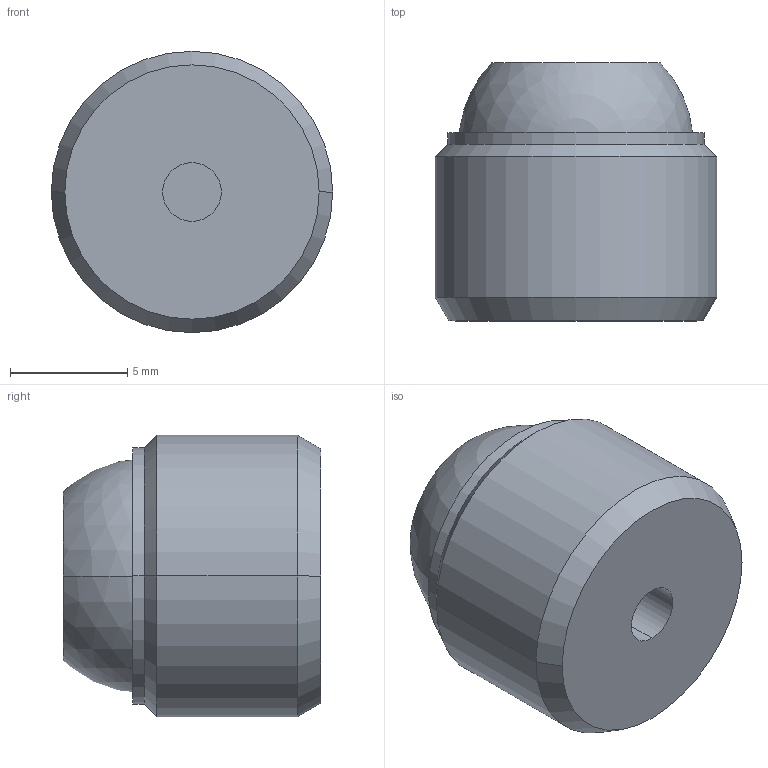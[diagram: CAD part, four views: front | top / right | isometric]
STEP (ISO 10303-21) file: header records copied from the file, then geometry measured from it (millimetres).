
FILE_DESCRIPTION (( 'STEP AP214' ), '1' );
FILE_NAME ('709.2-12-R.step', '2023-01-26T12:37:43', ( '' ), ( '' ), 'SwSTEP 2.0', 'SolidWorks 2022', '' );
FILE_SCHEMA (( 'AUTOMOTIVE_DESIGN' ));
Length unit declared in the file: millimetre
Products named in the file (3): 709.2-12-R; WB709.2_Gehäuse^WB709.2_12; WB709.2_Kugel^WB709.2_10-B
Assembly tree (2 placements, depth 2):
  709.2-12-R
    WB709.2_Gehäuse^WB709.2_12
    WB709.2_Kugel^WB709.2_10-B
Bounding box: 12 x 11 x 12 mm (x, y, z)
Volume: 1037.1 mm3; surface area: 907.6 mm2
Topology: 2 solids, 2 shells, 19 faces, 46 edges, 28 vertices
Faces by surface type: cylinder 6, plane 5, cone 4, sphere 4
Entity records: 624 total; most frequent: DIRECTION 110, CARTESIAN_POINT 82, ORIENTED_EDGE 72, AXIS2_PLACEMENT_3D 50, EDGE_CURVE 36, CIRCLE 26, EDGE_LOOP 22, VERTEX_POINT 22
